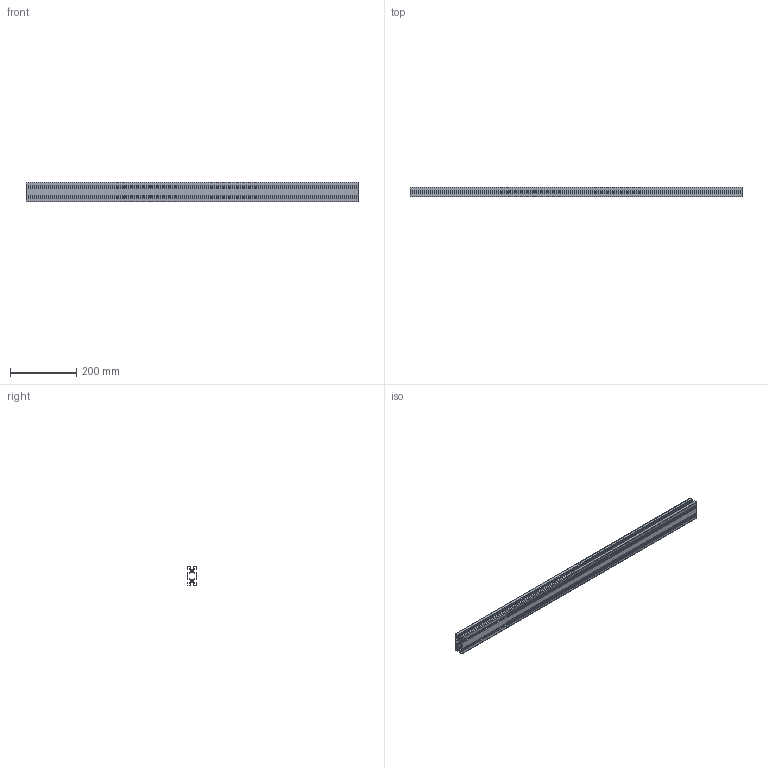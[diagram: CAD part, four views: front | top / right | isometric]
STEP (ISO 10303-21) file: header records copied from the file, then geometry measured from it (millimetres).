
FILE_DESCRIPTION (( 'STEP AP203' ), '1' );
FILE_NAME ('F36K.step', '2017-04-26T04:11:23', ( 'sr-d11' ), ( 'MouseComputer PC' ), 'SwSTEP 2.0', 'SolidWorks 2014', '' );
FILE_SCHEMA (( 'CONFIG_CONTROL_DESIGN' ));
Length unit declared in the file: millimetre
Products named in the file (1): F36K
Bounding box: 1000 x 30 x 60 mm (x, y, z)
Volume: 440436.5 mm3; surface area: 579980.6 mm2
Topology: 1 solids, 1 shells, 269 faces, 801 edges, 534 vertices
Faces by surface type: cylinder 151, plane 118
Entity records: 9242 total; most frequent: DIRECTION 1643, CARTESIAN_POINT 1605, ORIENTED_EDGE 1602, EDGE_CURVE 801, AXIS2_PLACEMENT_3D 572, VERTEX_POINT 534, LINE 499, VECTOR 499
